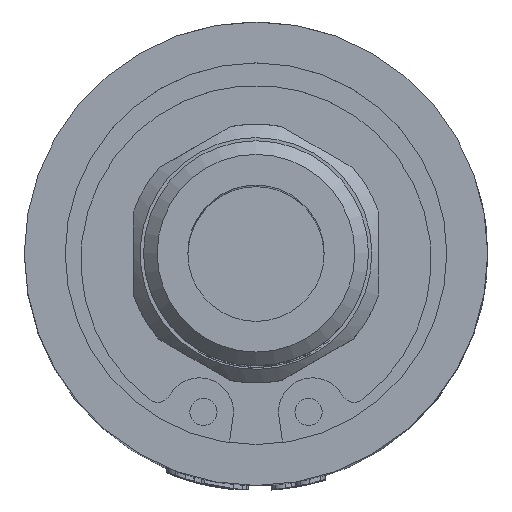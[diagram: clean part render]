
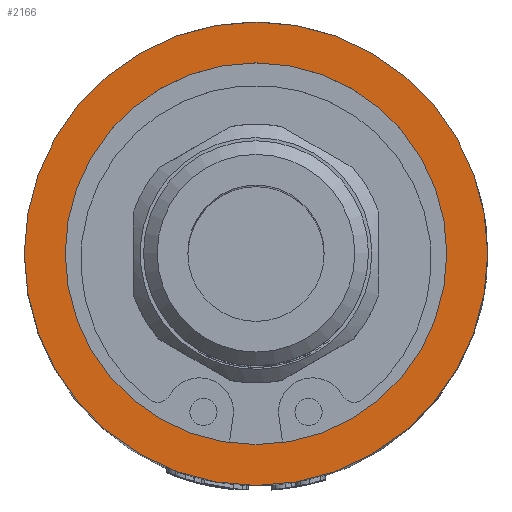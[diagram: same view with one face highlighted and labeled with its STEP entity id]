
A CAD part, top view. The second image highlights one B-rep face of the part: STEP entity #2166.
In plain terms, the highlighted planar face has unit normal (0, 0, 1).
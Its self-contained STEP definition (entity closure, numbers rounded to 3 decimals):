
#198=FACE_BOUND('',#4966,.T.);
#199=FACE_BOUND('',#4967,.T.);
#1273=CIRCLE('',#23338,17.);
#1277=CIRCLE('',#23347,14.);
#2166=ADVANCED_FACE('',(#198,#199),#2844,.T.);
#2844=PLANE('',#23348);
#4966=EDGE_LOOP('',(#10809));
#4967=EDGE_LOOP('',(#10810));
#10809=ORIENTED_EDGE('',*,*,#18392,.F.);
#10810=ORIENTED_EDGE('',*,*,#18400,.T.);
#15292=VERTEX_POINT('',#43877);
#15298=VERTEX_POINT('',#43894);
#18392=EDGE_CURVE('',#15292,#15292,#1273,.T.);
#18400=EDGE_CURVE('',#15298,#15298,#1277,.T.);
#23338=AXIS2_PLACEMENT_3D('',#43876,#25234,#25235);
#23347=AXIS2_PLACEMENT_3D('',#43893,#25254,#25255);
#23348=AXIS2_PLACEMENT_3D('',#43895,#25256,#25257);
#25234=DIRECTION('',(0.,0.,-1.));
#25235=DIRECTION('',(1.,0.,0.));
#25254=DIRECTION('',(0.,0.,-1.));
#25255=DIRECTION('',(1.,0.,0.));
#25256=DIRECTION('',(0.,0.,1.));
#25257=DIRECTION('',(1.,0.,0.));
#43876=CARTESIAN_POINT('',(0.,0.,50.));
#43877=CARTESIAN_POINT('',(17.,0.,50.));
#43893=CARTESIAN_POINT('',(0.,0.,50.));
#43894=CARTESIAN_POINT('',(14.,0.,50.));
#43895=CARTESIAN_POINT('',(0.,0.,50.));
